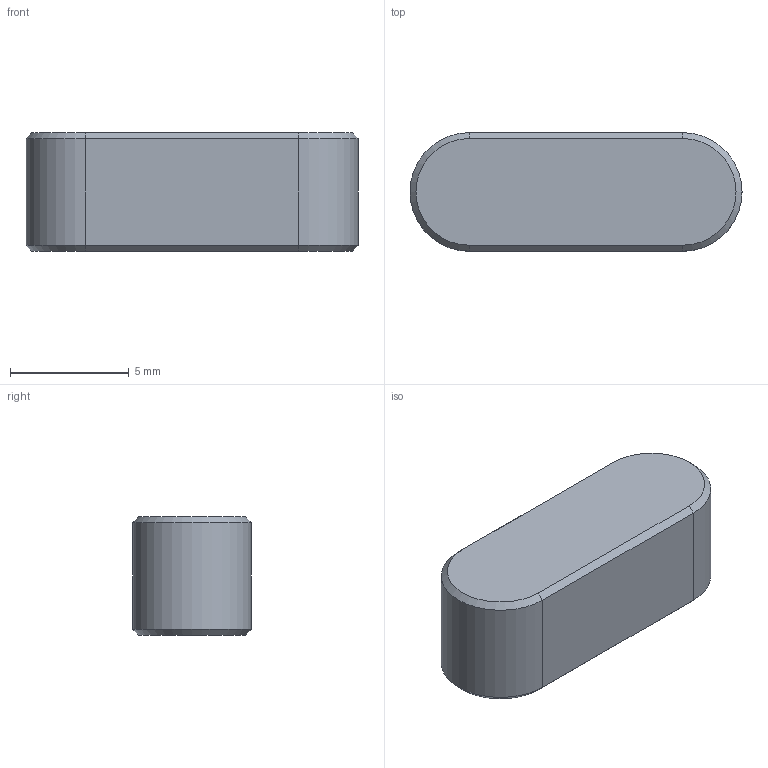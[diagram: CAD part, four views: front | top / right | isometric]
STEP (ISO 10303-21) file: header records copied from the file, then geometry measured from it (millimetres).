
FILE_DESCRIPTION(/* description */ ('키 및 해당 키홈'),/* implementation_level */ '2;1');
FILE_NAME(/* name */ '',/* time_stamp */ '2024-07-17T10:49:32+09:00',/* author */ ('jhkim'),/* organization */ (''),/* preprocessor_version */ 'ST-DEVELOPER v20',/* originating_system */ 'Autodesk Inventor 2025',/* authorisation */ '');
FILE_SCHEMA (('AUTOMOTIVE_DESIGN { 1 0 10303 214 3 1 1 }'));
Length unit declared in the file: millimetre
Products named in the file (1): 키 5 x 5 x 14
Bounding box: 14 x 5 x 5 mm (x, y, z)
Volume: 321.1 mm3; surface area: 287.8 mm2
Topology: 1 solids, 1 shells, 14 faces, 28 edges, 16 vertices
Faces by surface type: plane 8, cone 4, cylinder 2
Entity records: 399 total; most frequent: DIRECTION 66, CARTESIAN_POINT 59, ORIENTED_EDGE 56, EDGE_CURVE 28, AXIS2_PLACEMENT_3D 23, LINE 20, VECTOR 20, VERTEX_POINT 16
